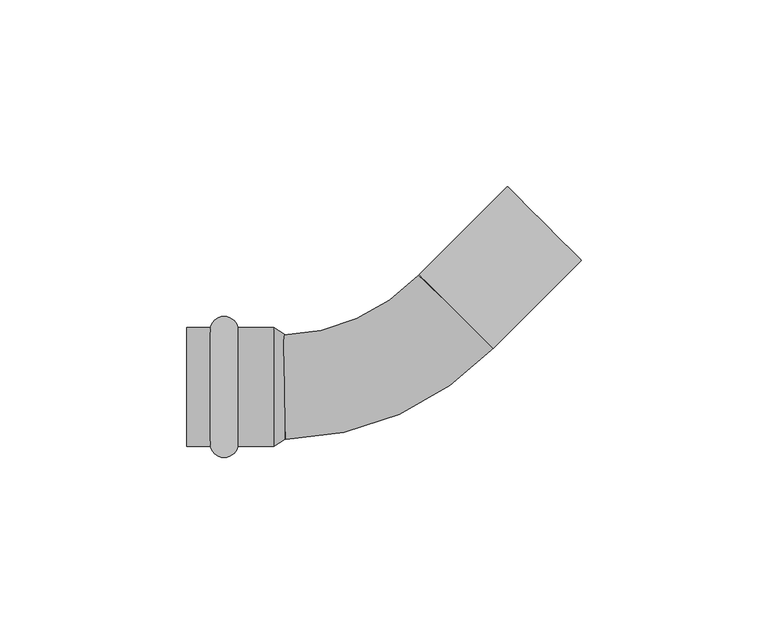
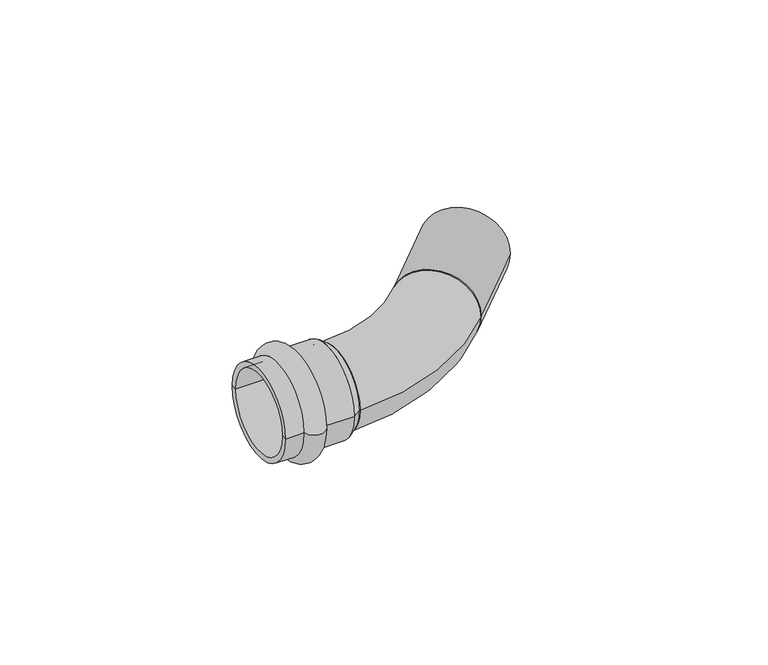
"""IFC4 building model written with IfcOpenShell, lengths in millimetres: pipe fitting geometry, VALTEC_VTi.958.I_Угольник 45° (раструб–труба) нержавеющая сталь. : VTi.958.I."""

from ifc_helpers import new_model, si_unit, point, frame, origin, origin_2d, place, context, project, spatial, polyline, circle_curve, ellipse_curve, trimmed, segment, composite_curve, outline, extrude, source, transform, mapped, element, save
from ifc_brep_helpers import plane_surface, cylinder_surface, revolved_surface, advanced_brep


def pipe_fitting_ea1df53c(model_context):
    return source(origin(), model_context, "Body", "SolidModel", [
        advanced_brep(
        [(-45.6242346, -15.9, 0.0), (-45.6242346, 15.9, 0.0), (-38.2757654, 15.9, 0.0), (-38.2757654, -15.9, 0.0), (-52.0, -15.9, 0.0), (-52.0, 15.9, 0.0), (-52.0, -14.0, 0.0), (-52.0, 14.0, 0.0), (-28.6, -14.0, 0.0), (-28.6, 14.0, 0.0), (-28.6, -15.9, 0.0), (-28.6, 15.9, 0.0)],
        [
            (0, 1, circle_curve(frame((-45.6242346, 0.0, 0.0), z_axis=(1.0, 0.0, 0.0), x_axis=(0.0, 1.0, 0.0)), 15.9)),
            (1, 2, circle_curve(frame((-41.95, 15.15, 0.0), z_axis=(0.0, 0.0, -1.0), x_axis=(1.0, 0.0, 0.0)), 3.75)),
            (2, 3, circle_curve(frame((-38.2757654, 0.0, 0.0), z_axis=(-1.0, 0.0, 0.0), x_axis=(0.0, 1.0, 0.0)), 15.9)),
            (3, 0, circle_curve(frame((-41.95, -15.15, 0.0), z_axis=(0.0, 0.0, -1.0), x_axis=(1.0, 0.0, 0.0)), 3.75)),
            (1, 0, circle_curve(frame((-45.6242346, 0.0, 0.0), z_axis=(1.0, 0.0, 0.0), x_axis=(0.0, 1.0, 0.0)), 15.9)),
            (3, 2, circle_curve(frame((-38.2757654, 0.0, 0.0), z_axis=(-1.0, 0.0, 0.0), x_axis=(0.0, 1.0, 0.0)), 15.9)),
            (4, 5, circle_curve(frame((-52.0, 0.0, 0.0), z_axis=(1.0, 0.0, 0.0), x_axis=(0.0, 1.0, 0.0)), 15.9)),
            (5, 1),
            (0, 4),
            (5, 4, circle_curve(frame((-52.0, 0.0, 0.0), z_axis=(1.0, 0.0, 0.0), x_axis=(0.0, 1.0, 0.0)), 15.9)),
            (6, 7, circle_curve(frame((-52.0, 0.0, 0.0), z_axis=(1.0, 0.0, 0.0), x_axis=(0.0, 1.0, 0.0)), 14.0)),
            (7, 5),
            (4, 6),
            (7, 6, circle_curve(frame((-52.0, 0.0, 0.0), z_axis=(1.0, 0.0, 0.0), x_axis=(0.0, 1.0, 0.0)), 14.0)),
            (8, 9, circle_curve(frame((-28.6, 0.0, 0.0), z_axis=(1.0, 0.0, 0.0), x_axis=(0.0, 1.0, 0.0)), 14.0)),
            (9, 7),
            (6, 8),
            (9, 8, circle_curve(frame((-28.6, 0.0, 0.0), z_axis=(1.0, 0.0, 0.0), x_axis=(0.0, 1.0, 0.0)), 14.0)),
            (10, 11, circle_curve(frame((-28.6, 0.0, 0.0), z_axis=(1.0, 0.0, 0.0), x_axis=(0.0, 1.0, 0.0)), 15.9)),
            (11, 9),
            (8, 10),
            (11, 10, circle_curve(frame((-28.6, 0.0, 0.0), z_axis=(1.0, 0.0, 0.0), x_axis=(0.0, 1.0, 0.0)), 15.9)),
            (2, 11),
            (10, 3),
        ],
        [
            revolved_surface(trimmed(ellipse_curve(frame((-41.95, 15.15, 0.0), z_axis=(0.0, 0.0, 1.0), x_axis=(1.0, 0.0, 0.0)), 3.75, 3.75), [point((-38.2757654, 15.9, 0.0))], [point((-45.6242346, 15.9, 0.0))], True, "CARTESIAN"), (-55.5364426, 0.0, 0.0), (-1.0, 0.0, 0.0)),
            cylinder_surface(frame((-55.5364426, 0.0, 0.0), z_axis=(-1.0, 0.0, 0.0), x_axis=(0.0, 1.0, 0.0)), 15.9),
            plane_surface(frame((-52.0, 0.0, 0.0), z_axis=(-1.0, 0.0, 0.0), x_axis=(0.0, 1.0, 0.0))),
            revolved_surface(polyline([(-52.0, 14.0, 0.0), (-28.6, 14.0, 0.0)]), (-55.5364426, 0.0, 0.0), (-1.0, 0.0, 0.0)),
            plane_surface(frame((-28.6, 0.0, 0.0), z_axis=(1.0, 0.0, 0.0), x_axis=(0.0, 1.0, 0.0))),
        ],
        [
            (0, [[1, 2, 3, 4]]),
            (0, [[5, -4, 6, -2]]),
            (1, [[7, 8, -1, 9]]),
            (1, [[10, -9, -5, -8]]),
            (2, [[11, 12, -7, 13]]),
            (2, [[14, -13, -10, -12]]),
            (3, [[15, 16, -11, 17]]),
            (3, [[18, -17, -14, -16]]),
            (4, [[19, 20, -15, 21]]),
            (4, [[22, -21, -18, -20]]),
            (1, [[-3, 23, -19, 24]]),
            (1, [[-6, -24, -22, -23]]),
        ],
    ),
        extrude(outline(composite_curve([segment(trimmed(circle_curve(origin_2d(), 14.0), [point((0.0, -14.0))], [point((0.0, 14.0))], False, "CARTESIAN"), True, "CONTINUOUS"), segment(trimmed(circle_curve(origin_2d(), 14.0), [point((0.0, 14.0))], [point((0.0, -14.0))], False, "CARTESIAN"), True, "CONTINUOUS")], self_intersect=False)), frame((20.2232539, 20.2232539, 0.0), z_axis=(0.7071067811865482, 0.7071067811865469, 0.0), x_axis=(0.0, 0.0, 1.0)), (0.0, 0.0, 1.0), 33.4),
        advanced_brep(
        [(-25.4704335, -13.9974045, 0.0), (-26.0095665, 13.9974045, 0.0), (30.3607329, 10.5676068, 0.0), (10.085775, 29.8789011, 0.0)],
        [
            (0, 1, circle_curve(frame((-25.74, 0.0, 0.0), z_axis=(-0.9998146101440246, -0.019254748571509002, 0.0), x_axis=(-0.019254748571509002, 0.9998146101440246, 0.0)), 14.0)),
            (1, 0, circle_curve(frame((-25.74, 0.0, 0.0), z_axis=(-0.9998146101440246, -0.019254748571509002, 0.0), x_axis=(-0.019254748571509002, 0.9998146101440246, 0.0)), 14.0)),
            (2, 3, circle_curve(frame((20.2232539, 20.2232539, 0.0), z_axis=(0.6896890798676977, 0.7241056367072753, 0.0), x_axis=(-0.7241056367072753, 0.6896890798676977, 0.0)), 14.0)),
            (3, 2, circle_curve(frame((20.2232539, 20.2232539, 0.0), z_axis=(0.6896890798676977, 0.7241056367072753, 0.0), x_axis=(-0.7241056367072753, 0.6896890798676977, 0.0)), 14.0)),
            (3, 1, circle_curve(frame((-26.9956002, 65.1978079, 0.0), z_axis=(0.0, 0.0, -1.0), x_axis=(0.019254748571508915, -0.9998146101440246, 0.0)), 51.2098972)),
            (0, 2, circle_curve(frame((-26.9956002, 65.1978079, 0.0), z_axis=(0.0, 0.0, 1.0), x_axis=(0.019254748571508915, -0.9998146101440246, 0.0)), 79.2098972)),
        ],
        [
            plane_surface(frame((-25.74, 0.0, 0.0), z_axis=(-0.9998146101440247, -0.01925474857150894, 0.0), x_axis=(0.0, 0.0, 1.0))),
            plane_surface(frame((20.2232539, 20.2232539, 0.0), z_axis=(0.6896890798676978, 0.7241056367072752, 0.0), x_axis=(0.0, 0.0, 1.0))),
            revolved_surface(trimmed(ellipse_curve(frame((-25.74, 0.0, 0.0), z_axis=(-0.9998146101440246, -0.019254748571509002, 0.0), x_axis=(-0.019254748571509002, 0.9998146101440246, 0.0)), 14.0, 14.0), [point((-25.4704335, -13.9974045, 0.0))], [point((-26.0095665, 13.9974045, 0.0))], True, "CARTESIAN"), (-26.9956002, 65.1978079, 0.0), (0.0, 0.0, 1.0)),
            revolved_surface(trimmed(ellipse_curve(frame((-25.74, 0.0, 0.0), z_axis=(-0.9998146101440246, -0.019254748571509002, 0.0), x_axis=(-0.019254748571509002, 0.9998146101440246, 0.0)), 14.0, 14.0), [point((-26.0095665, 13.9974045, 0.0))], [point((-25.4704335, -13.9974045, 0.0))], True, "CARTESIAN"), (-26.9956002, 65.1978079, 0.0), (0.0, 0.0, 1.0)),
        ],
        [
            (0, [[1, 2]]),
            (1, [[3, 4]]),
            (2, [[5, -1, 6, -4]]),
            (3, [[-6, -2, -5, -3]]),
        ],
    ),
        advanced_brep(
        [(-28.6, -15.9, 0.0), (-28.6, 15.9, 0.0), (-25.74, -14.0, 0.0), (-25.74, 14.0, 0.0)],
        [
            (0, 1, circle_curve(frame((-28.6, 0.0, 0.0), z_axis=(-1.0, 0.0, 0.0), x_axis=(0.0, -1.0, 0.0)), 15.9)),
            (1, 0, circle_curve(frame((-28.6, 0.0, 0.0), z_axis=(-1.0, 0.0, 0.0), x_axis=(0.0, 1.0, 0.0)), 15.9)),
            (2, 3, circle_curve(frame((-25.74, 0.0, 0.0), z_axis=(1.0, 0.0, 0.0), x_axis=(0.0, 1.0, 0.0)), 14.0)),
            (3, 2, circle_curve(frame((-25.74, 0.0, 0.0), z_axis=(1.0, 0.0, 0.0), x_axis=(0.0, -1.0, 0.0)), 14.0)),
            (2, 0),
            (1, 3),
        ],
        [
            plane_surface(frame((-28.6, 0.0, 0.0), z_axis=(-1.0, 0.0, 0.0), x_axis=(0.0, 0.0, -1.0))),
            plane_surface(frame((-25.74, 0.0, 0.0), z_axis=(1.0, 0.0, 0.0), x_axis=(0.0, 0.0, -1.0))),
            revolved_surface(polyline([(-25.74, -13.999999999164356, 0.0), (-28.6, -15.9, 0.0)]), (-4.6663158, 0.0, 0.0), (-1.0, 0.0, 0.0)),
            revolved_surface(polyline([(-25.74, 13.999999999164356, 0.0), (-28.6, 15.9, 0.0)]), (-4.6663158, 0.0, 0.0), (-1.0, 0.0, 0.0)),
        ],
        [
            (0, [[1, 2]]),
            (1, [[3, 4]]),
            (2, [[-3, 5, -2, 6]]),
            (3, [[-4, -6, -1, -5]]),
        ],
    ),
    ])


if __name__ == "__main__":
    model = new_model("IFC4")
    model_context = context("Model", 3, world=origin())
    ifc_project = project(units=[si_unit("LENGTHUNIT", "METRE", prefix="MILLI")], contexts=[model_context])
    site = spatial("IfcSite", under=ifc_project)
    building = spatial("IfcBuilding", under=site)
    placement = place(None, origin())
    pipe_fitting_shape = pipe_fitting_ea1df53c(model_context)
    element("IfcPipeFitting", 1, ObjectType="VALTEC_VTi.958.I_Угольник 45° (раструб–труба) нержавеющая сталь. : VTi.958.I", at=placement, inside=building, context=model_context, shape_type="MappedRepresentation", body=[
        mapped(pipe_fitting_shape, transform((0.0, 0.0, 0.0), x_axis=(1.0, 0.0, 0.0), y_axis=(0.0, 1.0, 0.0), z_axis=(0.0, 0.0, 1.0))),
    ])
    save(model, "model.ifc")
